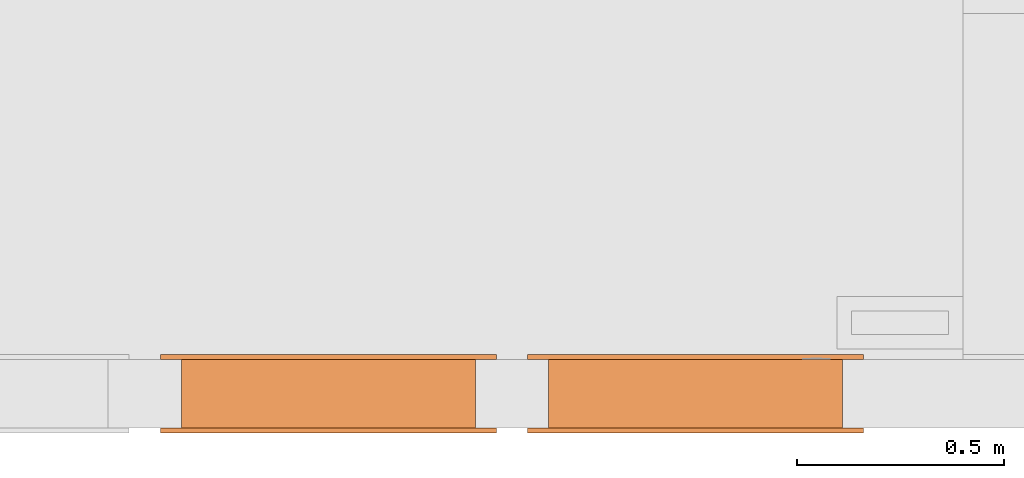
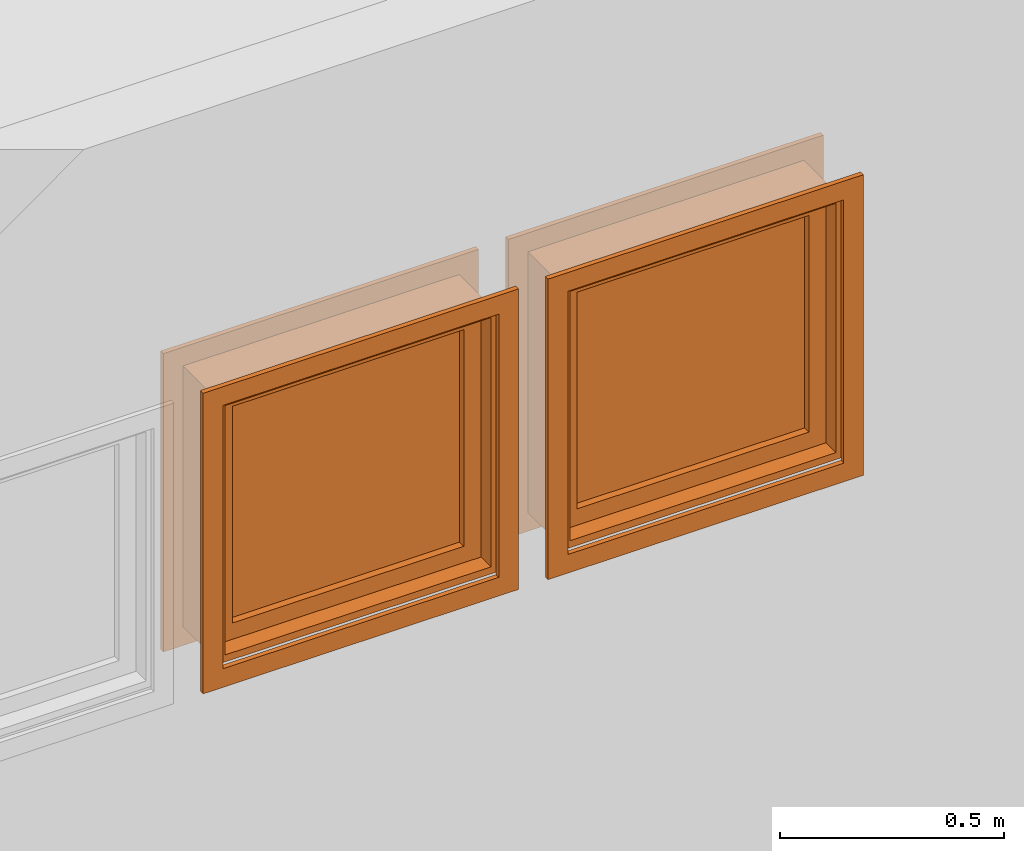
# One storey, part 56 of 103: 2 proxies.
"""IFC2X3 building model written with IfcOpenShell, lengths in inches."""

from ifc_helpers import new_model, entity, si_unit, converted_unit, derived_unit, money_unit, direction, frame, origin_with_axes, place, context, subcontext, project, spatial, faceted_brep, source, transform, mapped, type_object, element, save


model = new_model("IFC2X3")

# Units and contexts
model_context = context("Model", 3, precision=0.00039370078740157, world=origin_with_axes(), true_north=direction((0.0, 1.0)))
plan_context = context("Plan", 3, precision=0.00039370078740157, world=origin_with_axes(), true_north=direction((0.0, 1.0)))
body_context = subcontext(model_context, "Body", "Model", "MODEL_VIEW")
ifc_project = project(units=[converted_unit("LENGTHUNIT", "INCH", entity("IfcPositiveLengthMeasure", 0.0254), si_unit("LENGTHUNIT", "METRE"), dimensions=[1, 0, 0, 0, 0, 0, 0]), converted_unit("AREAUNIT", "SQUARE_FOOT", entity("IfcPositiveLengthMeasure", 0.09290304), si_unit("AREAUNIT", "SQUARE_METRE"), dimensions=[2, 0, 0, 0, 0, 0, 0]), si_unit("PLANEANGLEUNIT", "RADIAN"), si_unit("SOLIDANGLEUNIT", "STERADIAN"), money_unit("USD"), converted_unit("TIMEUNIT", "Year", entity("IfcTimeMeasure", 31557600.0), si_unit("TIMEUNIT", "SECOND"), dimensions=[0, 0, 1, 0, 0, 0, 0]), si_unit("MASSUNIT", "GRAM", prefix="KILO"), si_unit("THERMODYNAMICTEMPERATUREUNIT", "DEGREE_CELSIUS"), si_unit("LUMINOUSINTENSITYUNIT", "LUMEN"), si_unit("ENERGYUNIT", "JOULE", prefix="MEGA"), derived_unit("SPECIFICHEATCAPACITYUNIT", [(si_unit("ENERGYUNIT", "JOULE"), 1), (si_unit("MASSUNIT", "GRAM", prefix="KILO"), -1), (si_unit("THERMODYNAMICTEMPERATUREUNIT", "KELVIN"), -1)])], contexts=[model_context, plan_context])

# Site, building, storey
site_placement = place(None, origin_with_axes())
site = spatial("IfcSite", under=ifc_project, at=site_placement, Name="Site", CompositionType="ELEMENT")
building_placement = place(site_placement, origin_with_axes())
building = spatial("IfcBuilding", under=site, at=building_placement, Name="Building", CompositionType="ELEMENT")
storey_placement = place(building_placement, frame((0.0, 0.0, 127.9999999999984), z_axis=(0.0, 0.0, 1.0), x_axis=(1.0, 0.0, 0.0)))
storey = spatial("IfcBuildingStorey", under=building, at=storey_placement, Name="Second Floor", CompositionType="ELEMENT", Elevation=128.0)

# Proxies
building_element_proxy_type = type_object("IfcBuildingElementProxyType", Name="W Fixed", PredefinedType="NOTDEFINED")
shared_shape = source(origin_with_axes(), body_context, "Body", "Brep", [
    faceted_brep([(13.99999999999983, 0.0, 0.0), (-13.99999999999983, 0.0, 0.0), (-13.99999999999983, 1.999999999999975, 0.0), (13.99999999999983, 1.999999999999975, 0.0), (13.99999999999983, 0.0, 27.99999999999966), (-13.99999999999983, 0.0, 27.99999999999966), (13.49999999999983, 0.0, 0.4999999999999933), (-13.49999999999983, 0.0, 0.4999999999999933), (-13.49999999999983, 0.0, 27.49999999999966), (13.49999999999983, 0.0, 27.49999999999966), (-13.99999999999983, 1.999999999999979, 27.99999999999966), (13.99999999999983, 1.999999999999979, 27.99999999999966), (13.49999999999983, 1.999999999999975, 0.4999999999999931), (13.49999999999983, 1.999999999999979, 27.49999999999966), (-13.49999999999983, 1.999999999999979, 27.49999999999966), (-13.49999999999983, 1.999999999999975, 0.4999999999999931)], [[[0, 1, 2, 3]], [[0, 4, 5, 1], [6, 7, 8, 9]], [[1, 5, 10, 2]], [[3, 2, 10, 11], [12, 13, 14, 15]], [[4, 0, 3, 11]], [[5, 4, 11, 10]], [[7, 6, 12, 15]], [[8, 7, 15, 14]], [[9, 8, 14, 13]], [[6, 9, 13, 12]]]),
    faceted_brep([(15.9999999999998, 2.499999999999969, -1.999999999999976), (15.9999999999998, 1.999999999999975, -1.999999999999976), (13.99999999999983, 1.999999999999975, 0.0), (13.99999999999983, 2.499999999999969, 0.0), (15.9999999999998, 2.499999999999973, 29.99999999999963), (15.9999999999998, 1.999999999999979, 29.99999999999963), (13.99999999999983, 1.999999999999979, 27.99999999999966), (13.99999999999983, 2.499999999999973, 27.99999999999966)], [[[0, 1, 2, 3]], [[4, 5, 1, 0]], [[1, 5, 6, 2]], [[3, 2, 6, 7]], [[0, 3, 7, 4]], [[7, 6, 5, 4]]]),
    faceted_brep([(-15.9999999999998, 2.499999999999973, 29.99999999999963), (-15.9999999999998, 1.999999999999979, 29.99999999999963), (-13.99999999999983, 1.999999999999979, 27.99999999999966), (-13.99999999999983, 2.499999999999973, 27.99999999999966), (-15.9999999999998, 2.499999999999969, -1.999999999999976), (-15.9999999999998, 1.999999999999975, -1.999999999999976), (-13.99999999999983, 1.999999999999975, 0.0), (-13.99999999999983, 2.499999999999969, 0.0)], [[[0, 1, 2, 3]], [[4, 5, 1, 0]], [[1, 5, 6, 2]], [[3, 2, 6, 7]], [[0, 3, 7, 4]], [[7, 6, 5, 4]]]),
    faceted_brep([(-15.9999999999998, 2.499999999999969, -1.999999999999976), (-15.9999999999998, 1.999999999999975, -1.999999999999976), (-13.99999999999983, 1.999999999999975, 0.0), (-13.99999999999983, 2.499999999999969, 0.0), (15.9999999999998, 2.499999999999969, -1.999999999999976), (15.9999999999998, 1.999999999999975, -1.999999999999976), (13.99999999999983, 1.999999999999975, 0.0), (13.99999999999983, 2.499999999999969, 0.0)], [[[0, 1, 2, 3]], [[4, 5, 1, 0]], [[1, 5, 6, 2]], [[3, 2, 6, 7]], [[0, 3, 7, 4]], [[7, 6, 5, 4]]]),
    faceted_brep([(15.9999999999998, 2.499999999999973, 29.99999999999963), (15.9999999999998, 1.999999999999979, 29.99999999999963), (13.99999999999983, 1.999999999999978, 27.99999999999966), (13.99999999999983, 2.499999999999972, 27.99999999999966), (-15.9999999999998, 2.499999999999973, 29.99999999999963), (-15.9999999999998, 1.999999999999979, 29.99999999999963), (-13.99999999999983, 1.999999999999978, 27.99999999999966), (-13.99999999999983, 2.499999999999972, 27.99999999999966)], [[[0, 1, 2, 3]], [[4, 5, 1, 0]], [[1, 5, 6, 2]], [[3, 2, 6, 7]], [[0, 3, 7, 4]], [[7, 6, 5, 4]]]),
    faceted_brep([(15.9999999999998, -4.999999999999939, -2.249999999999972), (13.99999999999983, -4.999999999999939, -0.2499999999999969), (13.99999999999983, -4.499999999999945, -0.249999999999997), (15.9999999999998, -4.499999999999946, -2.249999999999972), (15.9999999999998, -4.999999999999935, 29.99999999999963), (13.99999999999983, -4.999999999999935, 27.99999999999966), (13.99999999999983, -4.499999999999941, 27.99999999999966), (15.9999999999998, -4.499999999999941, 29.99999999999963)], [[[0, 1, 2, 3]], [[0, 4, 5, 1]], [[1, 5, 6, 2]], [[3, 2, 6, 7]], [[4, 0, 3, 7]], [[5, 4, 7, 6]]]),
    faceted_brep([(-15.9999999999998, -4.999999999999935, 29.99999999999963), (-13.99999999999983, -4.999999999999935, 27.99999999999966), (-13.99999999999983, -4.499999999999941, 27.99999999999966), (-15.9999999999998, -4.499999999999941, 29.99999999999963), (-15.9999999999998, -4.999999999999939, -2.249999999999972), (-13.99999999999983, -4.999999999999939, -0.2499999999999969), (-13.99999999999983, -4.499999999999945, -0.249999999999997), (-15.9999999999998, -4.499999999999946, -2.249999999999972)], [[[0, 1, 2, 3]], [[0, 4, 5, 1]], [[1, 5, 6, 2]], [[3, 2, 6, 7]], [[4, 0, 3, 7]], [[5, 4, 7, 6]]]),
    faceted_brep([(-15.9999999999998, -4.999999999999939, -2.249999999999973), (-13.99999999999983, -4.999999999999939, -0.2499999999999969), (-13.99999999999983, -4.499999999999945, -0.249999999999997), (-15.9999999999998, -4.499999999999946, -2.249999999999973), (15.9999999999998, -4.999999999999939, -2.249999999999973), (13.99999999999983, -4.999999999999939, -0.2499999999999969), (13.99999999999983, -4.499999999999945, -0.249999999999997), (15.9999999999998, -4.499999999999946, -2.249999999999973)], [[[0, 1, 2, 3]], [[0, 4, 5, 1]], [[1, 5, 6, 2]], [[3, 2, 6, 7]], [[4, 0, 3, 7]], [[5, 4, 7, 6]]]),
    faceted_brep([(15.9999999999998, -4.999999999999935, 29.99999999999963), (13.99999999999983, -4.999999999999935, 27.99999999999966), (13.99999999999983, -4.499999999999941, 27.99999999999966), (15.9999999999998, -4.499999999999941, 29.99999999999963), (-15.9999999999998, -4.999999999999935, 29.99999999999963), (-13.99999999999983, -4.999999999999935, 27.99999999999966), (-13.99999999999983, -4.499999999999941, 27.99999999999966), (-15.9999999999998, -4.499999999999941, 29.99999999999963)], [[[0, 1, 2, 3]], [[0, 4, 5, 1]], [[1, 5, 6, 2]], [[3, 2, 6, 7]], [[4, 0, 3, 7]], [[5, 4, 7, 6]]]),
    faceted_brep([(13.50039370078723, -4.499999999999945, 0.7539370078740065), (13.99999999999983, -4.499999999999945, 0.7539370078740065), (13.99999999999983, -4.499999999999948, 27.49606299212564), (13.50039370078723, -4.499999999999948, 27.49606299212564), (13.50039370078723, -2.749999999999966, 0.7539370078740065), (13.74999999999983, -2.749999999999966, 0.7539370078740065), (13.74999999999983, 0.0, 0.7539370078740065), (13.99999999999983, 0.0, 0.7539370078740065), (13.99999999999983, 0.0, 27.49606299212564), (13.74999999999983, 0.0, 27.49606299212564), (13.74999999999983, -2.749999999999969, 27.49606299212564), (13.50039370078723, -2.749999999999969, 27.49606299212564)], [[[0, 1, 2, 3]], [[4, 5, 6, 7, 1, 0]], [[7, 8, 2, 1]], [[3, 2, 8, 9, 10, 11]], [[11, 4, 0, 3]], [[11, 10, 5, 4]], [[5, 10, 9, 6]], [[7, 6, 9, 8]]]),
    faceted_brep([(-13.50039370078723, -2.749999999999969, 27.49606299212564), (-13.74999999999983, -2.749999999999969, 27.49606299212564), (-13.74999999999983, 0.0, 27.49606299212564), (-13.99999999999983, 0.0, 27.49606299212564), (-13.99999999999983, -4.499999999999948, 27.49606299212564), (-13.50039370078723, -4.499999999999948, 27.49606299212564), (-13.50039370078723, -2.749999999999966, 0.7539370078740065), (-13.74999999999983, -2.749999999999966, 0.7539370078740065), (-13.74999999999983, 0.0, 0.7539370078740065), (-13.99999999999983, 0.0, 0.7539370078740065), (-13.99999999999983, -4.499999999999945, 0.7539370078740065), (-13.50039370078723, -4.499999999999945, 0.7539370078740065)], [[[0, 1, 2, 3, 4, 5]], [[6, 7, 1, 0]], [[7, 8, 2, 1]], [[3, 2, 8, 9]], [[3, 9, 10, 4]], [[5, 4, 10, 11]], [[11, 6, 0, 5]], [[11, 10, 9, 8, 7, 6]]]),
    faceted_brep([(-13.50039370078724, -2.749999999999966, 0.7539370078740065), (-13.74999999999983, -2.749999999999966, 0.7539370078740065), (-13.74999999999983, 0.0, 0.7539370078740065), (-13.99999999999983, 0.0, 0.7539370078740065), (-13.99999999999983, -4.499999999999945, 0.7539370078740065), (-13.50039370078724, -4.499999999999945, 0.7539370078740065), (-13.50039370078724, -2.749999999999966, 0.7496062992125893), (13.50039370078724, -2.749999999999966, 0.7496062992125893), (13.50039370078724, -2.749999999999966, 0.7539370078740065), (13.74999999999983, -2.749999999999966, 0.7539370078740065), (13.74999999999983, -2.749999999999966, 0.4999999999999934), (-13.74999999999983, -2.749999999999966, 0.4999999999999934), (-13.74999999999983, 0.0, 0.4999999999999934), (13.99999999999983, 0.0, 0.0), (-13.99999999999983, 0.0, 0.0), (13.74999999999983, 0.0, 0.4999999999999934), (13.74999999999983, 0.0, 0.7539370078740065), (13.99999999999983, 0.0, 0.7539370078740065), (-13.99999999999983, -4.499999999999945, 0.0), (13.50039370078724, -4.499999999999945, 0.7496062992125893), (-13.50039370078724, -4.499999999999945, 0.7496062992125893), (13.99999999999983, -4.499999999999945, 0.0), (13.99999999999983, -4.499999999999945, 0.7539370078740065), (13.50039370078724, -4.499999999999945, 0.7539370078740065)], [[[0, 1, 2, 3, 4, 5]], [[6, 7, 8, 9, 10, 11, 1, 0]], [[11, 12, 2, 1]], [[13, 14, 3, 2, 12, 15, 16, 17]], [[3, 14, 18, 4]], [[19, 20, 5, 4, 18, 21, 22, 23]], [[20, 6, 0, 5]], [[19, 7, 6, 20]], [[8, 7, 19, 23]], [[23, 22, 17, 16, 9, 8]], [[10, 9, 16, 15]], [[10, 15, 12, 11]], [[14, 13, 21, 18]], [[13, 17, 22, 21]]]),
    faceted_brep([(13.50039370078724, -4.499999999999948, 27.49606299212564), (13.99999999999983, -4.499999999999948, 27.49606299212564), (13.99999999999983, -4.499999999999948, 27.99999999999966), (-13.99999999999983, -4.499999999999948, 27.99999999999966), (-13.99999999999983, -4.499999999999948, 27.49606299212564), (-13.50039370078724, -4.499999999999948, 27.49606299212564), (-13.50039370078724, -4.499999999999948, 27.50039370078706), (13.50039370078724, -4.499999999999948, 27.50039370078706), (13.50039370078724, -2.749999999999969, 27.49606299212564), (13.74999999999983, -2.749999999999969, 27.49606299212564), (13.74999999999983, 0.0, 27.49606299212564), (13.99999999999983, 0.0, 27.49606299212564), (13.99999999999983, 0.0, 27.99999999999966), (-13.99999999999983, 0.0, 27.99999999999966), (-13.99999999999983, 0.0, 27.49606299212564), (-13.74999999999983, 0.0, 27.49606299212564), (-13.74999999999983, -2.749999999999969, 27.49606299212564), (-13.50039370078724, -2.749999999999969, 27.49606299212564), (-13.50039370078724, -2.749999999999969, 27.50039370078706), (13.50039370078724, -2.749999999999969, 27.50039370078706), (-13.74999999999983, -2.749999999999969, 27.74999999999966), (13.74999999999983, -2.749999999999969, 27.74999999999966), (13.74999999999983, 0.0, 27.74999999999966), (-13.74999999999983, 0.0, 27.74999999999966)], [[[0, 1, 2, 3, 4, 5, 6, 7]], [[8, 9, 10, 11, 1, 0]], [[11, 12, 2, 1]], [[12, 13, 3, 2]], [[13, 14, 4, 3]], [[5, 4, 14, 15, 16, 17]], [[5, 17, 18, 6]], [[6, 18, 19, 7]], [[7, 19, 8, 0]], [[19, 18, 17, 16, 20, 21, 9, 8]], [[21, 22, 10, 9]], [[15, 14, 13, 12, 11, 10, 22, 23]], [[16, 15, 23, 20]], [[20, 23, 22, 21]]]),
    faceted_brep([(11.74999999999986, -2.749999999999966, 2.499999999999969), (11.74999999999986, -2.749999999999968, 25.74999999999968), (11.74999999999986, -1.874999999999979, 25.74999999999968), (11.74999999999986, -1.874999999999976, 2.499999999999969), (13.74999999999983, -2.749999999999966, 2.499999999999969), (13.74999999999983, -2.749999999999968, 25.74999999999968), (13.74999999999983, -1.874999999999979, 25.74999999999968), (13.74999999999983, -1.874999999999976, 2.499999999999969)], [[[0, 1, 2, 3]], [[0, 4, 5, 1]], [[1, 5, 6, 2]], [[3, 2, 6, 7]], [[4, 0, 3, 7]], [[5, 4, 7, 6]]]),
    faceted_brep([(-13.74999999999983, -2.749999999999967, 2.499999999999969), (-13.74999999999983, -2.74999999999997, 25.74999999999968), (-13.74999999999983, -1.874999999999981, 25.74999999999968), (-13.74999999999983, -1.874999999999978, 2.499999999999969), (-11.74999999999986, -2.749999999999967, 2.499999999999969), (-11.74999999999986, -2.74999999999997, 25.74999999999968), (-11.74999999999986, -1.874999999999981, 25.74999999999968), (-11.74999999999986, -1.874999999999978, 2.499999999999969)], [[[0, 1, 2, 3]], [[0, 4, 5, 1]], [[1, 5, 6, 2]], [[3, 2, 6, 7]], [[4, 0, 3, 7]], [[5, 4, 7, 6]]]),
    faceted_brep([(-13.74999999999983, -2.749999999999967, 0.4999999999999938), (-13.74999999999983, -2.749999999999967, 2.499999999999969), (-13.74999999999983, -1.874999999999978, 2.499999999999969), (-13.74999999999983, -1.874999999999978, 0.4999999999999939), (13.74999999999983, -2.749999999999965, 0.4999999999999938), (13.74999999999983, -2.749999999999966, 2.499999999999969), (11.74999999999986, -2.749999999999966, 2.499999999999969), (0.9999999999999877, -2.749999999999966, 2.499999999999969), (-0.9999999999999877, -2.749999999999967, 2.499999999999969), (-11.74999999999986, -2.749999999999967, 2.499999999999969), (-11.74999999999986, -1.874999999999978, 2.499999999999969), (-0.9999999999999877, -1.874999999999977, 2.499999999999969), (0.9999999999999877, -1.874999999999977, 2.499999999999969), (11.74999999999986, -1.874999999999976, 2.499999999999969), (13.74999999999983, -1.874999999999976, 2.499999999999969), (13.74999999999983, -1.874999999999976, 0.4999999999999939)], [[[0, 1, 2, 3]], [[0, 4, 5, 6, 7, 8, 9, 1]], [[1, 9, 10, 2]], [[3, 2, 10, 11, 12, 13, 14, 15]], [[4, 0, 3, 15]], [[5, 4, 15, 14]], [[6, 5, 14, 13]], [[7, 6, 13, 12]], [[8, 7, 12, 11]], [[9, 8, 11, 10]]]),
    faceted_brep([(13.74999999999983, -2.749999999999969, 27.74999999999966), (13.74999999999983, -2.749999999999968, 25.74999999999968), (13.74999999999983, -1.874999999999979, 25.74999999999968), (13.74999999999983, -1.874999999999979, 27.74999999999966), (-13.74999999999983, -2.749999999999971, 27.74999999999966), (-13.74999999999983, -2.74999999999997, 25.74999999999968), (-11.74999999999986, -2.74999999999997, 25.74999999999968), (-0.9999999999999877, -2.749999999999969, 25.74999999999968), (0.9999999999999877, -2.749999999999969, 25.74999999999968), (11.74999999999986, -2.749999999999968, 25.74999999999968), (11.74999999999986, -1.874999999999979, 25.74999999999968), (0.9999999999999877, -1.87499999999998, 25.74999999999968), (-0.9999999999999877, -1.87499999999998, 25.74999999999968), (-11.74999999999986, -1.874999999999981, 25.74999999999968), (-13.74999999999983, -1.874999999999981, 25.74999999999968), (-13.74999999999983, -1.874999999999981, 27.74999999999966)], [[[0, 1, 2, 3]], [[0, 4, 5, 6, 7, 8, 9, 1]], [[1, 9, 10, 2]], [[3, 2, 10, 11, 12, 13, 14, 15]], [[4, 0, 3, 15]], [[5, 4, 15, 14]], [[6, 5, 14, 13]], [[7, 6, 13, 12]], [[8, 7, 12, 11]], [[9, 8, 11, 10]]]),
    faceted_brep([(11.74999999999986, -1.874999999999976, 2.499999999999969), (11.74999999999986, -1.874999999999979, 25.74999999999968), (11.74999999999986, -0.9999999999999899, 25.74999999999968), (11.74999999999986, -0.9999999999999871, 2.499999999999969), (13.74999999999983, -1.874999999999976, 2.499999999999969), (13.74999999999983, -1.874999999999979, 25.74999999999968), (13.74999999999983, -0.9999999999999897, 25.74999999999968), (13.74999999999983, -0.9999999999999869, 2.499999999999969)], [[[0, 1, 2, 3]], [[0, 4, 5, 1]], [[1, 5, 6, 2]], [[3, 2, 6, 7]], [[4, 0, 3, 7]], [[5, 4, 7, 6]]]),
    faceted_brep([(-13.74999999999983, -1.874999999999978, 2.499999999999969), (-13.74999999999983, -1.874999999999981, 25.74999999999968), (-13.74999999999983, -0.9999999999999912, 25.74999999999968), (-13.74999999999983, -0.9999999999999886, 2.499999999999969), (-11.74999999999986, -1.874999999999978, 2.499999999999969), (-11.74999999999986, -1.874999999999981, 25.74999999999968), (-11.74999999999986, -0.999999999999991, 25.74999999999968), (-11.74999999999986, -0.9999999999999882, 2.499999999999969)], [[[0, 1, 2, 3]], [[0, 4, 5, 1]], [[1, 5, 6, 2]], [[3, 2, 6, 7]], [[4, 0, 3, 7]], [[5, 4, 7, 6]]]),
    faceted_brep([(-13.74999999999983, -1.874999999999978, 0.4999999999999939), (-13.74999999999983, -1.874999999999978, 2.499999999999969), (-13.74999999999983, -0.9999999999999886, 2.499999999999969), (-13.74999999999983, -0.9999999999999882, 0.499999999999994), (13.74999999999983, -1.874999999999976, 0.4999999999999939), (13.74999999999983, -1.874999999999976, 2.499999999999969), (11.74999999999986, -1.874999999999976, 2.499999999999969), (0.9999999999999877, -1.874999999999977, 2.499999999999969), (-0.9999999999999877, -1.874999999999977, 2.499999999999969), (-11.74999999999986, -1.874999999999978, 2.499999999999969), (-11.74999999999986, -0.9999999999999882, 2.499999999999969), (-0.9999999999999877, -0.9999999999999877, 2.499999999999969), (0.9999999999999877, -0.9999999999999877, 2.499999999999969), (11.74999999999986, -0.9999999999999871, 2.499999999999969), (13.74999999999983, -0.9999999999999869, 2.499999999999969), (13.74999999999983, -0.9999999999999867, 0.499999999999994)], [[[0, 1, 2, 3]], [[0, 4, 5, 6, 7, 8, 9, 1]], [[1, 9, 10, 2]], [[3, 2, 10, 11, 12, 13, 14, 15]], [[4, 0, 3, 15]], [[5, 4, 15, 14]], [[6, 5, 14, 13]], [[7, 6, 13, 12]], [[8, 7, 12, 11]], [[9, 8, 11, 10]]]),
    faceted_brep([(13.74999999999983, -1.874999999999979, 27.74999999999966), (13.74999999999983, -1.874999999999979, 25.74999999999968), (13.74999999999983, -0.9999999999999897, 25.74999999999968), (13.74999999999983, -0.9999999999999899, 27.74999999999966), (-13.74999999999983, -1.874999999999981, 27.74999999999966), (-13.74999999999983, -1.874999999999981, 25.74999999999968), (-11.74999999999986, -1.874999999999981, 25.74999999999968), (-0.9999999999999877, -1.87499999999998, 25.74999999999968), (0.9999999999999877, -1.87499999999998, 25.74999999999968), (11.74999999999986, -1.874999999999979, 25.74999999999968), (11.74999999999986, -0.9999999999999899, 25.74999999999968), (0.9999999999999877, -0.9999999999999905, 25.74999999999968), (-0.9999999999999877, -0.9999999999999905, 25.74999999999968), (-11.74999999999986, -0.999999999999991, 25.74999999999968), (-13.74999999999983, -0.9999999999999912, 25.74999999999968), (-13.74999999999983, -0.9999999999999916, 27.74999999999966)], [[[0, 1, 2, 3]], [[0, 4, 5, 6, 7, 8, 9, 1]], [[1, 9, 10, 2]], [[3, 2, 10, 11, 12, 13, 14, 15]], [[4, 0, 3, 15]], [[5, 4, 15, 14]], [[6, 5, 14, 13]], [[7, 6, 13, 12]], [[8, 7, 12, 11]], [[9, 8, 11, 10]]]),
    faceted_brep([(11.74999999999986, -1.999999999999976, 2.499999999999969), (-11.74999999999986, -1.999999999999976, 2.499999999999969), (-11.74999999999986, -1.749999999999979, 2.499999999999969), (11.74999999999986, -1.749999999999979, 2.499999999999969), (11.74999999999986, -1.999999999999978, 25.74999999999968), (-11.74999999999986, -1.999999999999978, 25.74999999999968), (-11.74999999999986, -1.749999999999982, 25.74999999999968), (11.74999999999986, -1.749999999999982, 25.74999999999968)], [[[0, 1, 2, 3]], [[0, 4, 5, 1]], [[1, 5, 6, 2]], [[3, 2, 6, 7]], [[4, 0, 3, 7]], [[5, 4, 7, 6]]]),
])
for number, where, z_axis, x_axis, name in (
    (1, (51.00018065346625, 6.500000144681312, 65.99999999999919), (0.0, 0.0, 1.0), (1.0, 0.0, 0.0), "WD - 002"),
    (2, (86.000180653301, 6.500000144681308, 65.99999999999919), (0.0, 0.0, 1.0), (1.0, 0.0, 0.0), "WD - 002"),
):
    element("IfcBuildingElementProxy", number, at=place(storey_placement, frame(where, z_axis=z_axis, x_axis=x_axis)), inside=storey, type_object=building_element_proxy_type, Name=name, context=body_context, shape_type="MappedRepresentation", body=[
        mapped(shared_shape, transform((13.99999999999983, -1.999999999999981, 0.0))),
    ])

save(model, "model.ifc")
